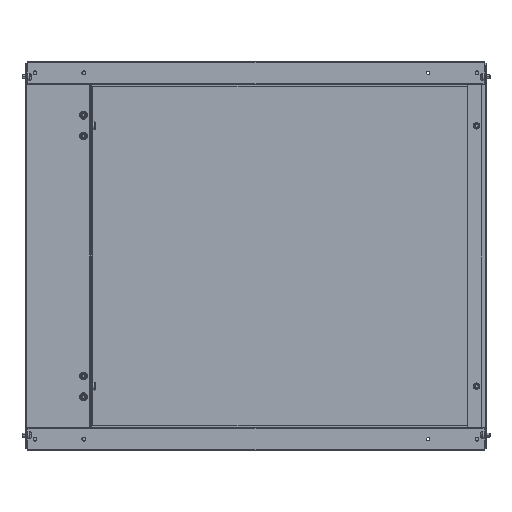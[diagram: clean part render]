
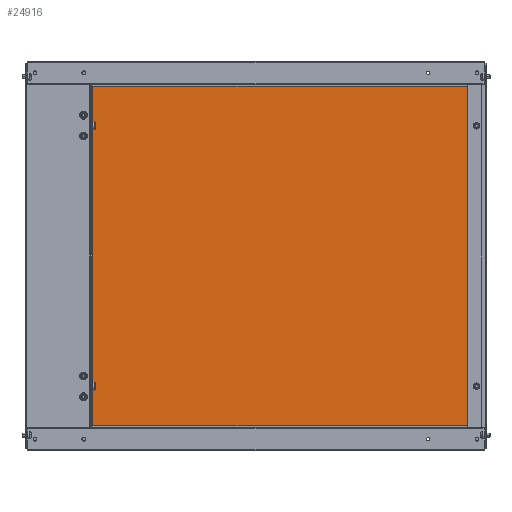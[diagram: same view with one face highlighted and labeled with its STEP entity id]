
A CAD part, left-side view. The second image highlights one B-rep face of the part: STEP entity #24916.
In plain terms, the highlighted planar face has unit normal (-1, 0, 0).
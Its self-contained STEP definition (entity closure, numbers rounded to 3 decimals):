
#659 = CARTESIAN_POINT ( 'NONE',  ( 54.25, 93., -498.65 ) ) ;
#1830 = LINE ( 'NONE', #12590, #8570 ) ;
#2022 = CARTESIAN_POINT ( 'NONE',  ( 54.25, -194.75, -759.15 ) ) ;
#2178 = CARTESIAN_POINT ( 'NONE',  ( 54.25, 93., -238.15 ) ) ;
#2395 = CARTESIAN_POINT ( 'NONE',  ( 54.25, 380.75, -759.15 ) ) ;
#4245 = ORIENTED_EDGE ( 'NONE', *, *, #6111, .T. ) ;
#5858 = AXIS2_PLACEMENT_3D ( 'NONE', #659, #11130, #15054 ) ;
#6096 = DIRECTION ( 'NONE',  ( 0., 1., 0. ) ) ;
#6111 = EDGE_CURVE ( 'NONE', #21024, #17864, #23314, .T. ) ;
#6112 = LINE ( 'NONE', #19080, #24557 ) ;
#8570 = VECTOR ( 'NONE', #10212, 1000. ) ;
#8889 = VECTOR ( 'NONE', #16654, 1000. ) ;
#10212 = DIRECTION ( 'NONE',  ( 0., 0., -1. ) ) ;
#10569 = LINE ( 'NONE', #2178, #22436 ) ;
#11130 = DIRECTION ( 'NONE',  ( -1., 0., 0. ) ) ;
#12590 = CARTESIAN_POINT ( 'NONE',  ( 54.25, 380.75, -498.65 ) ) ;
#12674 = ORIENTED_EDGE ( 'NONE', *, *, #20449, .T. ) ;
#12683 = DIRECTION ( 'NONE',  ( 0., 0., 1. ) ) ;
#15054 = DIRECTION ( 'NONE',  ( 0., 1., 0. ) ) ;
#15865 = CARTESIAN_POINT ( 'NONE',  ( 54.25, 380.75, -238.15 ) ) ;
#16654 = DIRECTION ( 'NONE',  ( 0., -1., 0. ) ) ;
#17283 = FACE_OUTER_BOUND ( 'NONE', #17342, .T. ) ;
#17342 = EDGE_LOOP ( 'NONE', ( #12674, #19326, #4245, #27164 ) ) ;
#17864 = VERTEX_POINT ( 'NONE', #2022 ) ;
#18985 = CARTESIAN_POINT ( 'NONE',  ( 54.25, 93., -759.15 ) ) ;
#19080 = CARTESIAN_POINT ( 'NONE',  ( 54.25, -194.75, -498.65 ) ) ;
#19326 = ORIENTED_EDGE ( 'NONE', *, *, #19475, .T. ) ;
#19475 = EDGE_CURVE ( 'NONE', #20632, #21024, #1830, .T. ) ;
#20449 = EDGE_CURVE ( 'NONE', #26681, #20632, #10569, .T. ) ;
#20632 = VERTEX_POINT ( 'NONE', #15865 ) ;
#21024 = VERTEX_POINT ( 'NONE', #2395 ) ;
#21536 = CARTESIAN_POINT ( 'NONE',  ( 54.25, -194.75, -238.15 ) ) ;
#22436 = VECTOR ( 'NONE', #6096, 1000. ) ;
#23314 = LINE ( 'NONE', #18985, #8889 ) ;
#24557 = VECTOR ( 'NONE', #12683, 1000. ) ;
#24759 = EDGE_CURVE ( 'NONE', #17864, #26681, #6112, .T. ) ;
#24916 = ADVANCED_FACE ( 'NONE', ( #17283 ), #25931, .T. ) ;
#25931 = PLANE ( 'NONE',  #5858 ) ;
#26681 = VERTEX_POINT ( 'NONE', #21536 ) ;
#27164 = ORIENTED_EDGE ( 'NONE', *, *, #24759, .T. ) ;
